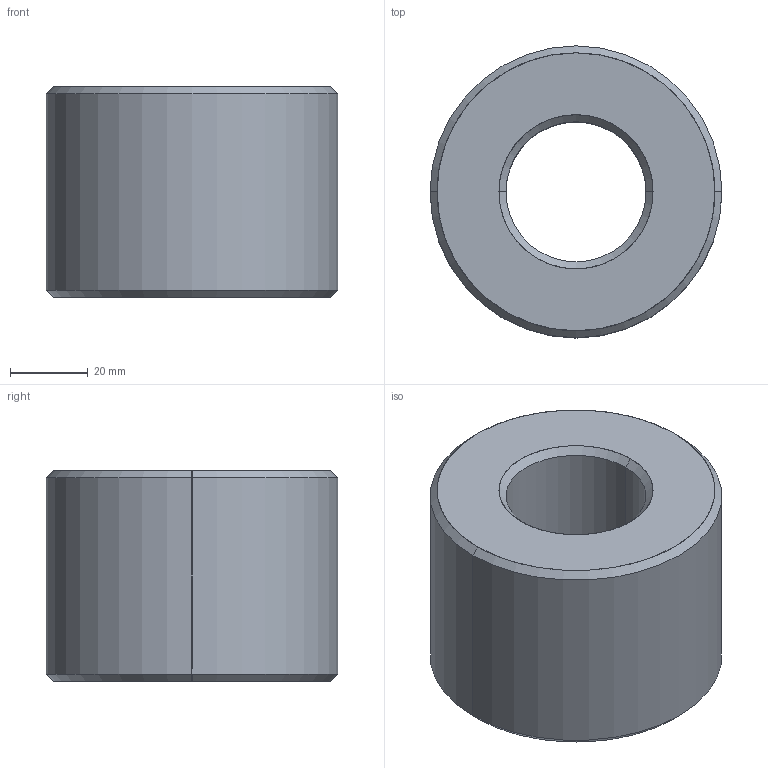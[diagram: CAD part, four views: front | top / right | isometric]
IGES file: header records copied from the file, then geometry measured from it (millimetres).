
Start section: SolidWorks IGES file using analytic representation for surfaces
Global section: file name: C:\Users\ianosborn\Desktop\L1339_v2\L1339_v2_20241024_IGES\L1339.R36-06.igs; native system: SolidWorks 2019; preprocessor: SolidWorks 2019; author: IanOsborn; date: 241024.151200; units: millimetre
Bounding box: 75 x 75 x 54 mm (x, y, z)
Surface area: 24895.3 mm2 (no closed solid volume)
Topology: 0 solids, 0 shells, 14 faces, 304 edges, 304 vertices
Faces by surface type: revolution 12, bspline 2
